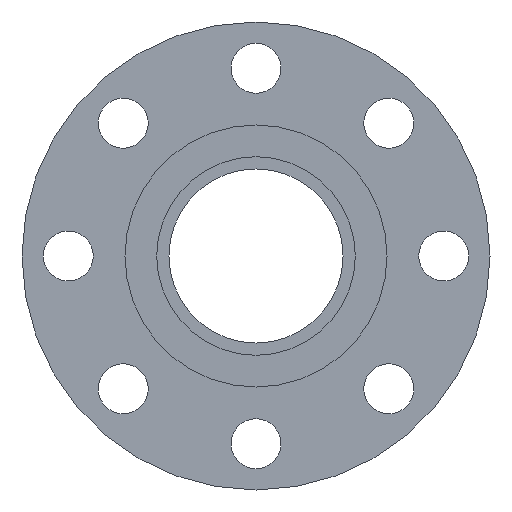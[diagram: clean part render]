
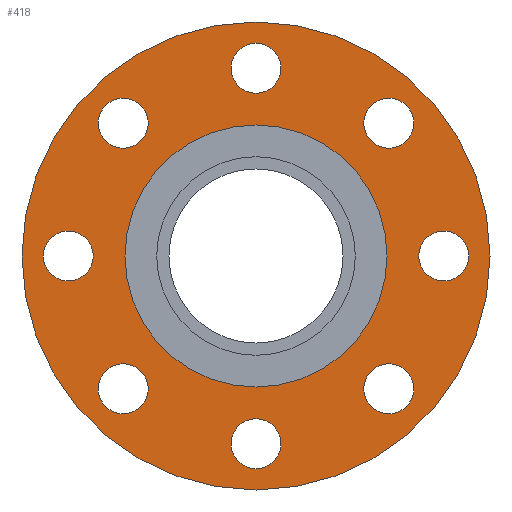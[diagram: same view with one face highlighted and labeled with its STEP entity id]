
A CAD part, left-side view. The second image highlights one B-rep face of the part: STEP entity #418.
In plain terms, the highlighted planar face has unit normal (-1, 0, 0).
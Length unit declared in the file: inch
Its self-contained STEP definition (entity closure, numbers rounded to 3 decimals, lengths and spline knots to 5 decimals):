
#14=FACE_BOUND('',#72,.T.);
#15=FACE_BOUND('',#73,.T.);
#16=FACE_BOUND('',#74,.T.);
#17=FACE_BOUND('',#75,.T.);
#18=FACE_BOUND('',#76,.T.);
#19=FACE_BOUND('',#77,.T.);
#20=FACE_BOUND('',#78,.T.);
#21=FACE_BOUND('',#79,.T.);
#22=FACE_BOUND('',#80,.T.);
#36=PLANE('',#478);
#51=FACE_OUTER_BOUND('',#71,.T.);
#71=EDGE_LOOP('',(#304,#305));
#72=EDGE_LOOP('',(#306));
#73=EDGE_LOOP('',(#307));
#74=EDGE_LOOP('',(#308));
#75=EDGE_LOOP('',(#309));
#76=EDGE_LOOP('',(#310));
#77=EDGE_LOOP('',(#311));
#78=EDGE_LOOP('',(#312));
#79=EDGE_LOOP('',(#313));
#80=EDGE_LOOP('',(#314,#315));
#133=CIRCLE('',#451,0.44);
#135=CIRCLE('',#454,0.44);
#137=CIRCLE('',#457,0.44);
#139=CIRCLE('',#460,0.44);
#141=CIRCLE('',#463,0.44);
#143=CIRCLE('',#466,0.44);
#145=CIRCLE('',#469,0.44);
#147=CIRCLE('',#472,0.44);
#148=CIRCLE('',#474,4.125);
#149=CIRCLE('',#475,4.125);
#152=CIRCLE('',#479,2.31);
#153=CIRCLE('',#480,2.31);
#173=VERTEX_POINT('',#649);
#175=VERTEX_POINT('',#655);
#177=VERTEX_POINT('',#661);
#179=VERTEX_POINT('',#667);
#181=VERTEX_POINT('',#673);
#183=VERTEX_POINT('',#679);
#185=VERTEX_POINT('',#685);
#187=VERTEX_POINT('',#691);
#188=VERTEX_POINT('',#695);
#189=VERTEX_POINT('',#696);
#192=VERTEX_POINT('',#705);
#193=VERTEX_POINT('',#706);
#214=EDGE_CURVE('',#173,#173,#133,.T.);
#217=EDGE_CURVE('',#175,#175,#135,.T.);
#220=EDGE_CURVE('',#177,#177,#137,.T.);
#223=EDGE_CURVE('',#179,#179,#139,.T.);
#226=EDGE_CURVE('',#181,#181,#141,.T.);
#229=EDGE_CURVE('',#183,#183,#143,.T.);
#232=EDGE_CURVE('',#185,#185,#145,.T.);
#235=EDGE_CURVE('',#187,#187,#147,.T.);
#236=EDGE_CURVE('',#188,#189,#148,.T.);
#237=EDGE_CURVE('',#189,#188,#149,.T.);
#241=EDGE_CURVE('',#192,#193,#152,.T.);
#242=EDGE_CURVE('',#193,#192,#153,.T.);
#304=ORIENTED_EDGE('',*,*,#236,.T.);
#305=ORIENTED_EDGE('',*,*,#237,.T.);
#306=ORIENTED_EDGE('',*,*,#214,.T.);
#307=ORIENTED_EDGE('',*,*,#217,.T.);
#308=ORIENTED_EDGE('',*,*,#220,.T.);
#309=ORIENTED_EDGE('',*,*,#223,.T.);
#310=ORIENTED_EDGE('',*,*,#226,.T.);
#311=ORIENTED_EDGE('',*,*,#229,.T.);
#312=ORIENTED_EDGE('',*,*,#232,.T.);
#313=ORIENTED_EDGE('',*,*,#235,.T.);
#314=ORIENTED_EDGE('',*,*,#241,.F.);
#315=ORIENTED_EDGE('',*,*,#242,.F.);
#418=ADVANCED_FACE('',(#51,#14,#15,#16,#17,#18,#19,#20,#21,#22),#36,.T.);
#451=AXIS2_PLACEMENT_3D('',#651,#516,#517);
#454=AXIS2_PLACEMENT_3D('',#657,#523,#524);
#457=AXIS2_PLACEMENT_3D('',#663,#530,#531);
#460=AXIS2_PLACEMENT_3D('',#669,#537,#538);
#463=AXIS2_PLACEMENT_3D('',#675,#544,#545);
#466=AXIS2_PLACEMENT_3D('',#681,#551,#552);
#469=AXIS2_PLACEMENT_3D('',#687,#558,#559);
#472=AXIS2_PLACEMENT_3D('',#693,#565,#566);
#474=AXIS2_PLACEMENT_3D('',#697,#569,#570);
#475=AXIS2_PLACEMENT_3D('',#698,#571,#572);
#478=AXIS2_PLACEMENT_3D('',#704,#578,#579);
#479=AXIS2_PLACEMENT_3D('',#707,#580,#581);
#480=AXIS2_PLACEMENT_3D('',#708,#582,#583);
#516=DIRECTION('center_axis',(1.,0.,0.));
#517=DIRECTION('ref_axis',(0.,-0.707,0.707));
#523=DIRECTION('center_axis',(1.,0.,0.));
#524=DIRECTION('ref_axis',(0.,-1.,0.));
#530=DIRECTION('center_axis',(1.,0.,0.));
#531=DIRECTION('ref_axis',(0.,-0.707,-0.707));
#537=DIRECTION('center_axis',(1.,0.,0.));
#538=DIRECTION('ref_axis',(0.,0.,-1.));
#544=DIRECTION('center_axis',(1.,0.,0.));
#545=DIRECTION('ref_axis',(0.,0.707,-0.707));
#551=DIRECTION('center_axis',(1.,0.,0.));
#552=DIRECTION('ref_axis',(0.,1.,0.));
#558=DIRECTION('center_axis',(1.,0.,0.));
#559=DIRECTION('ref_axis',(0.,0.707,0.707));
#565=DIRECTION('center_axis',(1.,0.,0.));
#566=DIRECTION('ref_axis',(0.,0.,1.));
#569=DIRECTION('center_axis',(-1.,0.,0.));
#570=DIRECTION('ref_axis',(0.,0.,1.));
#571=DIRECTION('center_axis',(-1.,0.,0.));
#572=DIRECTION('ref_axis',(0.,0.,1.));
#578=DIRECTION('center_axis',(-1.,0.,0.));
#579=DIRECTION('ref_axis',(0.,0.,1.));
#580=DIRECTION('center_axis',(-1.,0.,0.));
#581=DIRECTION('ref_axis',(0.,0.,1.));
#582=DIRECTION('center_axis',(-1.,0.,0.));
#583=DIRECTION('ref_axis',(0.,0.,1.));
#649=CARTESIAN_POINT('',(-1.12,2.65165,-2.65165));
#651=CARTESIAN_POINT('Origin',(-1.12,2.34052,-2.34052));
#655=CARTESIAN_POINT('',(-1.12,3.75,0.));
#657=CARTESIAN_POINT('Origin',(-1.12,3.31,0.));
#661=CARTESIAN_POINT('',(-1.12,2.65165,2.65165));
#663=CARTESIAN_POINT('Origin',(-1.12,2.34052,2.34052));
#667=CARTESIAN_POINT('',(-1.12,0.,3.75));
#669=CARTESIAN_POINT('Origin',(-1.12,0.,3.31));
#673=CARTESIAN_POINT('',(-1.12,-2.65165,2.65165));
#675=CARTESIAN_POINT('Origin',(-1.12,-2.34052,2.34052));
#679=CARTESIAN_POINT('',(-1.12,-3.75,0.));
#681=CARTESIAN_POINT('Origin',(-1.12,-3.31,0.));
#685=CARTESIAN_POINT('',(-1.12,-2.65165,-2.65165));
#687=CARTESIAN_POINT('Origin',(-1.12,-2.34052,-2.34052));
#691=CARTESIAN_POINT('',(-1.12,0.,-3.75));
#693=CARTESIAN_POINT('Origin',(-1.12,0.,-3.31));
#695=CARTESIAN_POINT('',(-1.12,0.,4.125));
#696=CARTESIAN_POINT('',(-1.12,0.,-4.125));
#697=CARTESIAN_POINT('Origin',(-1.12,0.,0.));
#698=CARTESIAN_POINT('Origin',(-1.12,0.,0.));
#704=CARTESIAN_POINT('Origin',(-1.12,0.,3.2175));
#705=CARTESIAN_POINT('',(-1.12,0.,2.31));
#706=CARTESIAN_POINT('',(-1.12,0.,-2.31));
#707=CARTESIAN_POINT('Origin',(-1.12,0.,0.));
#708=CARTESIAN_POINT('Origin',(-1.12,0.,0.));
